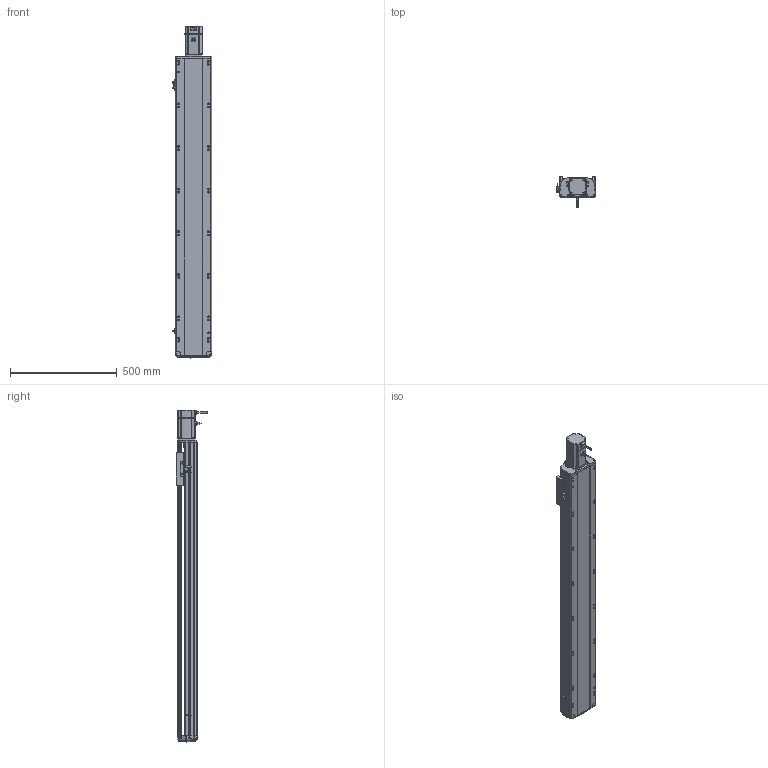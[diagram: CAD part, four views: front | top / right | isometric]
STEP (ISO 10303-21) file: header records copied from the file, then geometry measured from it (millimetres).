
FILE_DESCRIPTION (( 'STEP AP214' ), '1' );
FILE_NAME ('RTH17-XX-1150-E-M75-C4.STEP', '2025-10-24T09:58:58', ( '' ), ( '' ), 'SwSTEP 2.0', 'SolidWorks 2018', '' );
FILE_SCHEMA (( 'AUTOMOTIVE_DESIGN' ));
Length unit declared in the file: millimetre
Products named in the file (9): N_RTH17-E-004丝杆螺母连接座^RTH17-XX-XX-E-M75-C4（方程式）; RTH17-XX-1150-E-M75-C4; N_RTH17-E-011底座^RTH17-XX-XX-E-M75-C4（方程式）; N_RTH17-E-007上盖^RTH17-XX-XX-E-M75-C4（方程式）; N_OMRON EE-SX672 換覜ん^RTH17-XX-XX-E-M75-C4ㄗ源最宒ㄘ; N_RTH-L-012 感应片(外置)^RTH17-XX-XX-E-M75-C4（方程式）; N_RTH17-GY-001P^RTH17-XX-XX-E-M75-C4（方程式）; N_M75^RTH17-XX-XX-E-M75-C4（方程式）; N_RTH17-E-008-P75电机板^RTH17-XX-XX-E-M75-C4（方程式）
Assembly tree (10 placements, depth 2):
  RTH17-XX-1150-E-M75-C4
    N_RTH17-E-011底座^RTH17-XX-XX-E-M75-C4（方程式）
    N_RTH17-E-007上盖^RTH17-XX-XX-E-M75-C4（方程式）
    N_M75^RTH17-XX-XX-E-M75-C4（方程式）
    N_RTH17-E-008-P75电机板^RTH17-XX-XX-E-M75-C4（方程式）
    N_OMRON EE-SX672 換覜ん^RTH17-XX-XX-E-M75-C4ㄗ源最宒ㄘ  x3
    N_RTH-L-012 感应片(外置)^RTH17-XX-XX-E-M75-C4（方程式）
    N_RTH17-E-004丝杆螺母连接座^RTH17-XX-XX-E-M75-C4（方程式）
    N_RTH17-GY-001P^RTH17-XX-XX-E-M75-C4（方程式）
Bounding box: 183.5 x 145.7 x 1558.19 mm (x, y, z)
Volume: 11290154.2 mm3; surface area: 1464159.4 mm2
Topology: 9 solids, 11 shells, 1812 faces, 5037 edges, 3266 vertices
Faces by surface type: plane 828, cylinder 570, bspline 377, cone 28, torus 9
Entity records: 54070 total; most frequent: CARTESIAN_POINT 21171, ORIENTED_EDGE 7098, DIRECTION 5957, EDGE_CURVE 3553, VERTEX_POINT 2302, AXIS2_PLACEMENT_3D 2039, VECTOR 1879, LINE 1879
